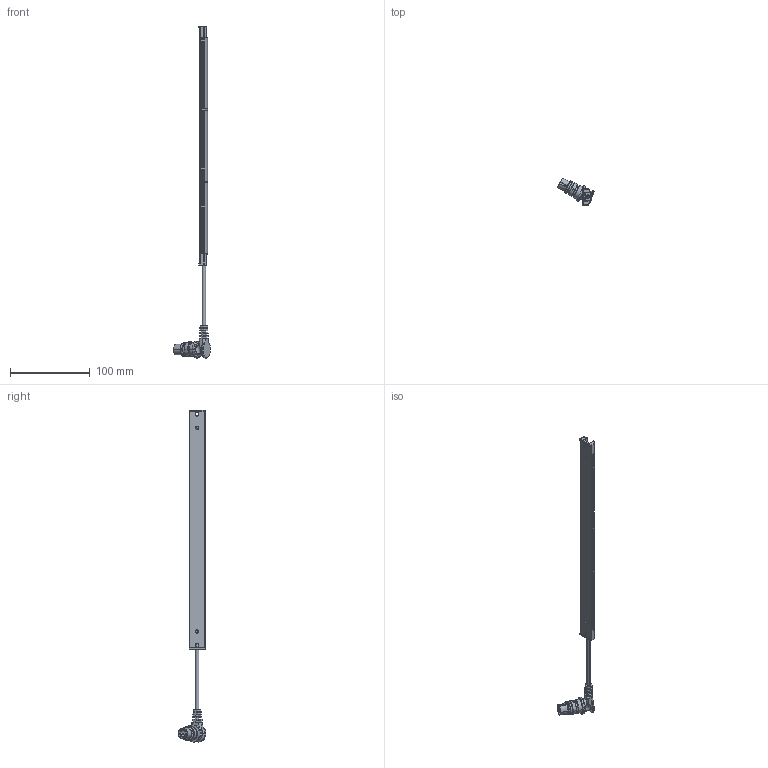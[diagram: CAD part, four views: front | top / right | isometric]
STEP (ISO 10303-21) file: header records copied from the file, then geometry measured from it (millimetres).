
FILE_DESCRIPTION (( 'STEP AP203' ), '1' );
FILE_NAME ('3D_TSS.STEP', '2014-03-04T06:37:04', ( '' ), ( '' ), 'SwSTEP 2.0', 'SolidWorks 2010', '' );
FILE_SCHEMA (( 'CONFIG_CONTROL_DESIGN' ));
Length unit declared in the file: millimetre
Products named in the file (1): 3D_TSS
Bounding box: 46.07 x 34.91 x 415.88 mm (x, y, z)
Surface area: 27781.1 mm2 (no closed solid volume)
Topology: 0 solids, 14 shells, 405 faces, 1258 edges, 855 vertices
Faces by surface type: cylinder 171, plane 155, torus 54, cone 17, sphere 6, bspline 2
Entity records: 14302 total; most frequent: CARTESIAN_POINT 3116, DIRECTION 2405, ORIENTED_EDGE 2162, EDGE_CURVE 1252, AXIS2_PLACEMENT_3D 860, VERTEX_POINT 855, LINE 685, VECTOR 685
